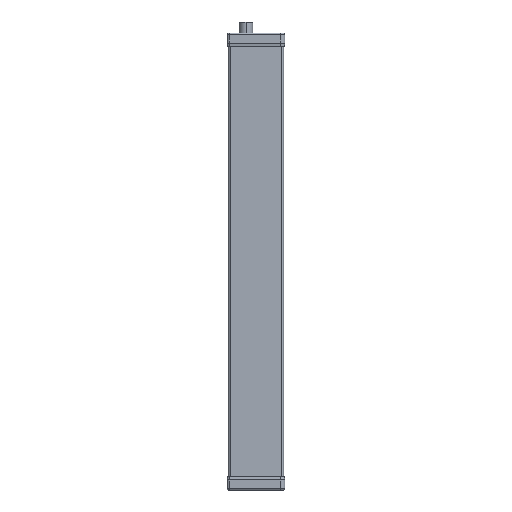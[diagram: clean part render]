
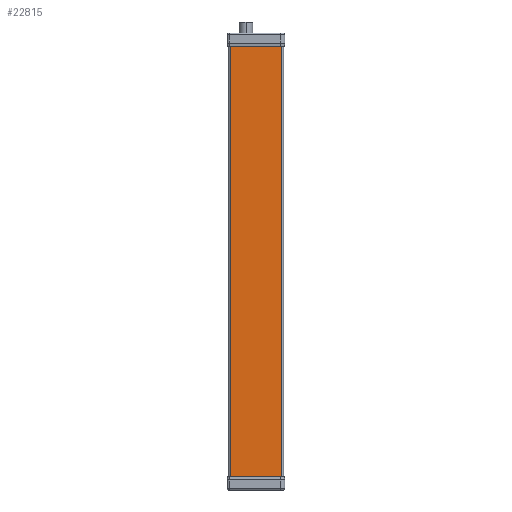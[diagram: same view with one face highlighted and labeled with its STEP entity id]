
A CAD part, left-side view. The second image highlights one B-rep face of the part: STEP entity #22815.
In plain terms, the highlighted planar face has unit normal (-1, 0, 0).
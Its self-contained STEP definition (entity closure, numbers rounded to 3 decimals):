
#16707 = CARTESIAN_POINT ( 'NONE',  ( -21.191, -17.562, -120. ) ) ;
#16970 = DIRECTION ( 'NONE',  ( 0., 0., -1. ) ) ;
#16971 = VECTOR ( 'NONE', #16970, 1000. ) ;
#16972 = CARTESIAN_POINT ( 'NONE',  ( -21.191, 23.438, 234. ) ) ;
#16974 = LINE ( 'NONE', #16972, #16971 ) ;
#16977 = DIRECTION ( 'NONE',  ( 0., 1., 0. ) ) ;
#16978 = VECTOR ( 'NONE', #16977, 1000. ) ;
#16979 = CARTESIAN_POINT ( 'NONE',  ( -21.191, -50.274, 234. ) ) ;
#16980 = LINE ( 'NONE', #16979, #16978 ) ;
#16997 = DIRECTION ( 'NONE',  ( 0., 0., 1. ) ) ;
#16999 = VECTOR ( 'NONE', #16997, 1000. ) ;
#17000 = CARTESIAN_POINT ( 'NONE',  ( -21.191, -17.562, 234. ) ) ;
#17002 = LINE ( 'NONE', #17000, #16999 ) ;
#17046 = CARTESIAN_POINT ( 'NONE',  ( -21.191, -17.562, 234. ) ) ;
#17079 = FACE_OUTER_BOUND ( 'NONE', #22754, .T. ) ;
#17092 = CARTESIAN_POINT ( 'NONE',  ( -21.191, 23.438, 234. ) ) ;
#17150 = DIRECTION ( 'NONE',  ( 0., -1., 0. ) ) ;
#17152 = DIRECTION ( 'NONE',  ( -1., 0., 0. ) ) ;
#17153 = CARTESIAN_POINT ( 'NONE',  ( -21.191, -50.274, 234. ) ) ;
#17154 = AXIS2_PLACEMENT_3D ( 'NONE', #17153, #17152, #17150 ) ;
#17158 = PLANE ( 'NONE',  #17154 ) ;
#17221 = CARTESIAN_POINT ( 'NONE',  ( -21.191, 23.438, -120. ) ) ;
#17222 = DIRECTION ( 'NONE',  ( 0., 1., 0. ) ) ;
#17223 = VECTOR ( 'NONE', #17222, 1000. ) ;
#17224 = CARTESIAN_POINT ( 'NONE',  ( -21.191, -50.274, -120. ) ) ;
#17225 = LINE ( 'NONE', #17224, #17223 ) ;
#22481 = ORIENTED_EDGE ( 'NONE', *, *, #22788, .T. ) ;
#22747 = VERTEX_POINT ( 'NONE', #16707 ) ;
#22754 = EDGE_LOOP ( 'NONE', ( #22816, #22481, #22792, #22810 ) ) ;
#22788 = EDGE_CURVE ( 'NONE', #22747, #22800, #17002, .T. ) ;
#22792 = ORIENTED_EDGE ( 'NONE', *, *, #22793, .T. ) ;
#22793 = EDGE_CURVE ( 'NONE', #22800, #22809, #16980, .T. ) ;
#22794 = EDGE_CURVE ( 'NONE', #22809, #22827, #16974, .T. ) ;
#22800 = VERTEX_POINT ( 'NONE', #17046 ) ;
#22809 = VERTEX_POINT ( 'NONE', #17092 ) ;
#22810 = ORIENTED_EDGE ( 'NONE', *, *, #22794, .T. ) ;
#22815 = ADVANCED_FACE ( 'NONE', ( #17079 ), #17158, .T. ) ;
#22816 = ORIENTED_EDGE ( 'NONE', *, *, #22826, .F. ) ;
#22826 = EDGE_CURVE ( 'NONE', #22747, #22827, #17225, .T. ) ;
#22827 = VERTEX_POINT ( 'NONE', #17221 ) ;
